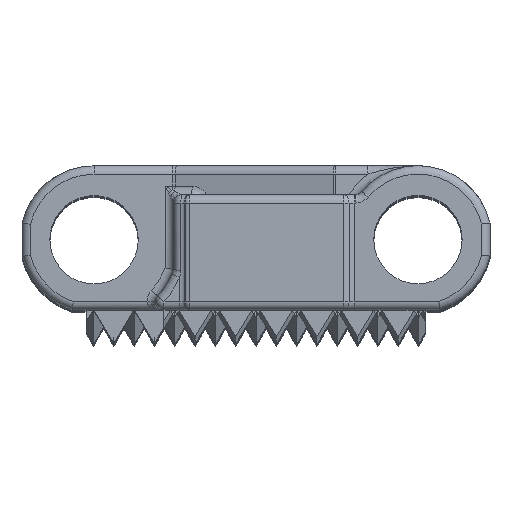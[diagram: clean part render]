
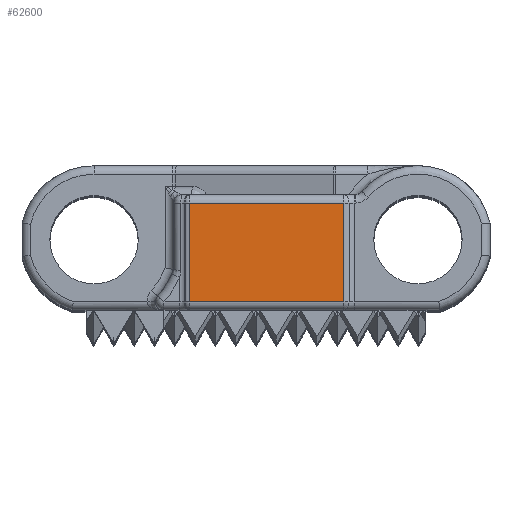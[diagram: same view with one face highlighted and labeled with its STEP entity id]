
A CAD part, top view. The second image highlights one B-rep face of the part: STEP entity #62600.
In plain terms, the highlighted planar face has unit normal (0, 0, 1).
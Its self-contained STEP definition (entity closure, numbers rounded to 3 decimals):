
#19546=DIRECTION('',(1.,0.,0.));
#19547=VECTOR('',#19546,9.067);
#19548=CARTESIAN_POINT('',(-3.892,-3.65,38.));
#19549=LINE('',#19548,#19547);
#19550=DIRECTION('',(0.,-1.,0.));
#19551=VECTOR('',#19550,5.8);
#19552=CARTESIAN_POINT('',(-3.892,2.15,38.));
#19553=LINE('',#19552,#19551);
#19554=DIRECTION('',(1.,0.,0.));
#19555=VECTOR('',#19554,9.067);
#19556=CARTESIAN_POINT('',(-3.892,2.15,38.));
#19557=LINE('',#19556,#19555);
#19558=DIRECTION('',(0.,-1.,0.));
#19559=VECTOR('',#19558,5.8);
#19560=CARTESIAN_POINT('',(5.175,2.15,38.));
#19561=LINE('',#19560,#19559);
#25766=CARTESIAN_POINT('',(5.175,-3.65,38.));
#25767=VERTEX_POINT('',#25766);
#25768=CARTESIAN_POINT('',(-3.892,-3.65,38.));
#25769=VERTEX_POINT('',#25768);
#25795=CARTESIAN_POINT('',(5.175,2.15,38.));
#25796=VERTEX_POINT('',#25795);
#25801=CARTESIAN_POINT('',(-3.892,2.15,38.));
#25802=VERTEX_POINT('',#25801);
#62587=CARTESIAN_POINT('',(-4.043,-4.15,38.));
#62588=DIRECTION('',(0.,0.,1.));
#62589=DIRECTION('',(1.,0.,0.));
#62590=AXIS2_PLACEMENT_3D('',#62587,#62588,#62589);
#62591=PLANE('',#62590);
#62592=ORIENTED_EDGE('',*,*,#62578,.F.);
#62593=ORIENTED_EDGE('',*,*,#62555,.F.);
#62595=ORIENTED_EDGE('',*,*,#62594,.T.);
#62597=ORIENTED_EDGE('',*,*,#62596,.T.);
#62598=EDGE_LOOP('',(#62592,#62593,#62595,#62597));
#62599=FACE_OUTER_BOUND('',#62598,.F.);
#62555=EDGE_CURVE('',#25802,#25769,#19553,.T.);
#62578=EDGE_CURVE('',#25769,#25767,#19549,.T.);
#62594=EDGE_CURVE('',#25802,#25796,#19557,.T.);
#62596=EDGE_CURVE('',#25796,#25767,#19561,.T.);
#62600=ADVANCED_FACE('',(#62599),#62591,.T.);
